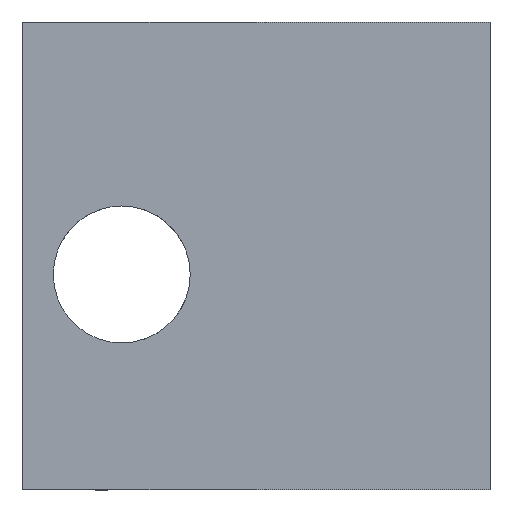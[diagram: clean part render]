
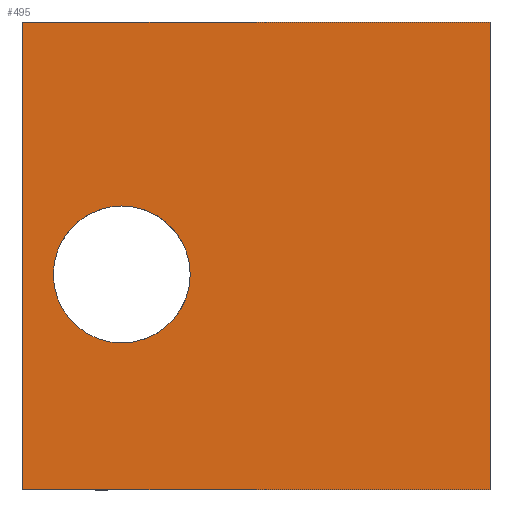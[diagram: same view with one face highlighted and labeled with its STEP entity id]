
A CAD part, front view. The second image highlights one B-rep face of the part: STEP entity #495.
In plain terms, the highlighted planar face has unit normal (0, -1, 0).
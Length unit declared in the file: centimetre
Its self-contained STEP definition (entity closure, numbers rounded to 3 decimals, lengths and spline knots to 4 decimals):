
#2 = LINE ( 'NONE', #219, #244 ) ;
#11 = ORIENTED_EDGE ( 'NONE', *, *, #467, .T. ) ;
#14 = CARTESIAN_POINT ( 'NONE',  ( 1000., 0., 0. ) ) ;
#17 = EDGE_LOOP ( 'NONE', ( #68, #247 ) ) ;
#40 = ORIENTED_EDGE ( 'NONE', *, *, #786, .T. ) ;
#41 = CARTESIAN_POINT ( 'NONE',  ( 1000., 0., 1000. ) ) ;
#58 = AXIS2_PLACEMENT_3D ( 'NONE', #67, #64, #213 ) ;
#64 = DIRECTION ( 'NONE',  ( 0., 1., 0. ) ) ;
#67 = CARTESIAN_POINT ( 'NONE',  ( 213.1804, 0., 460.5485 ) ) ;
#68 = ORIENTED_EDGE ( 'NONE', *, *, #144, .T. ) ;
#87 = CARTESIAN_POINT ( 'NONE',  ( 0., 0., 1000. ) ) ;
#91 = LINE ( 'NONE', #87, #228 ) ;
#96 = VERTEX_POINT ( 'NONE', #241 ) ;
#97 = FACE_BOUND ( 'NONE', #17, .T. ) ;
#109 = DIRECTION ( 'NONE',  ( 0., 0., 1. ) ) ;
#125 = EDGE_CURVE ( 'NONE', #753, #529, #91, .T. ) ;
#141 = DIRECTION ( 'NONE',  ( 0., 0., -1. ) ) ;
#144 = EDGE_CURVE ( 'NONE', #96, #523, #719, .T. ) ;
#149 = LINE ( 'NONE', #369, #591 ) ;
#152 = CARTESIAN_POINT ( 'NONE',  ( 0., 0., 1000. ) ) ;
#180 = DIRECTION ( 'NONE',  ( 0., 1., 0. ) ) ;
#213 = DIRECTION ( 'NONE',  ( 0., 0., 1. ) ) ;
#219 = CARTESIAN_POINT ( 'NONE',  ( 1000., 0., 1000. ) ) ;
#228 = VECTOR ( 'NONE', #670, 100. ) ;
#241 = CARTESIAN_POINT ( 'NONE',  ( 213.1804, 0., 606.8877 ) ) ;
#244 = VECTOR ( 'NONE', #141, 100. ) ;
#247 = ORIENTED_EDGE ( 'NONE', *, *, #383, .T. ) ;
#264 = CARTESIAN_POINT ( 'NONE',  ( 0., 0., 1000. ) ) ;
#304 = ORIENTED_EDGE ( 'NONE', *, *, #714, .F. ) ;
#305 = AXIS2_PLACEMENT_3D ( 'NONE', #694, #553, #400 ) ;
#329 = ORIENTED_EDGE ( 'NONE', *, *, #125, .F. ) ;
#369 = CARTESIAN_POINT ( 'NONE',  ( 0., 0., 0. ) ) ;
#383 = EDGE_CURVE ( 'NONE', #523, #96, #678, .T. ) ;
#392 = PLANE ( 'NONE',  #840 ) ;
#400 = DIRECTION ( 'NONE',  ( 0., 0., 1. ) ) ;
#467 = EDGE_CURVE ( 'NONE', #617, #690, #149, .T. ) ;
#476 = FACE_OUTER_BOUND ( 'NONE', #807, .T. ) ;
#495 = ADVANCED_FACE ( 'NONE', ( #97, #476 ), #392, .F. ) ;
#499 = CARTESIAN_POINT ( 'NONE',  ( 0., 0., 1000. ) ) ;
#508 = CARTESIAN_POINT ( 'NONE',  ( 0., 0., 0. ) ) ;
#520 = LINE ( 'NONE', #152, #666 ) ;
#523 = VERTEX_POINT ( 'NONE', #693 ) ;
#529 = VERTEX_POINT ( 'NONE', #41 ) ;
#553 = DIRECTION ( 'NONE',  ( 0., 1., 0. ) ) ;
#591 = VECTOR ( 'NONE', #658, 100. ) ;
#617 = VERTEX_POINT ( 'NONE', #508 ) ;
#658 = DIRECTION ( 'NONE',  ( 1., 0., 0. ) ) ;
#666 = VECTOR ( 'NONE', #779, 100. ) ;
#670 = DIRECTION ( 'NONE',  ( 1., 0., 0. ) ) ;
#678 = CIRCLE ( 'NONE', #58, 146.3393 ) ;
#690 = VERTEX_POINT ( 'NONE', #14 ) ;
#693 = CARTESIAN_POINT ( 'NONE',  ( 213.1804, 0., 314.2092 ) ) ;
#694 = CARTESIAN_POINT ( 'NONE',  ( 213.1804, 0., 460.5485 ) ) ;
#714 = EDGE_CURVE ( 'NONE', #529, #690, #2, .T. ) ;
#719 = CIRCLE ( 'NONE', #305, 146.3393 ) ;
#753 = VERTEX_POINT ( 'NONE', #499 ) ;
#779 = DIRECTION ( 'NONE',  ( 0., 0., -1. ) ) ;
#786 = EDGE_CURVE ( 'NONE', #753, #617, #520, .T. ) ;
#807 = EDGE_LOOP ( 'NONE', ( #11, #304, #329, #40 ) ) ;
#840 = AXIS2_PLACEMENT_3D ( 'NONE', #264, #180, #109 ) ;
